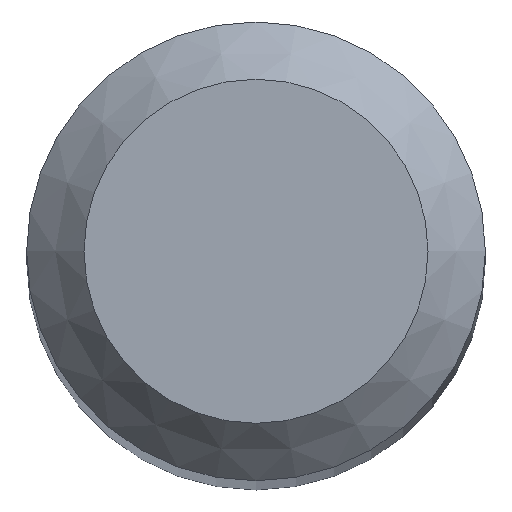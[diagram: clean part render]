
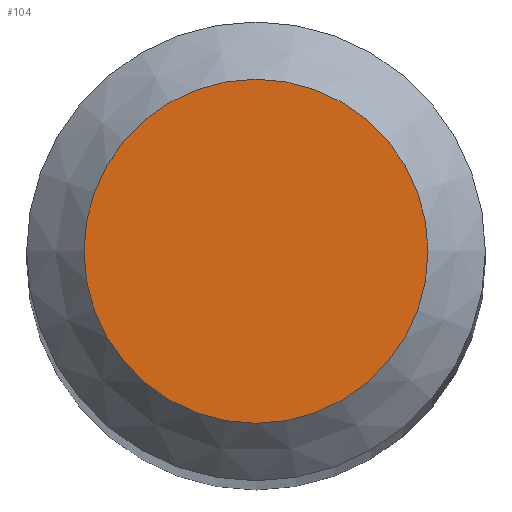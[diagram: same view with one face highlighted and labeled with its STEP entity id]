
A CAD part, top view. The second image highlights one B-rep face of the part: STEP entity #104.
In plain terms, the highlighted planar face has unit normal (0, 0, 1).
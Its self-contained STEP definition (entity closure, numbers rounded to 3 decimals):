
#88=CARTESIAN_POINT('',(1.5,0.0,110.0));
#89=DIRECTION('',(0.0,0.0,1.0));
#90=DIRECTION('',(1.0,0.0,0.0));
#91=AXIS2_PLACEMENT_3D('',#88,#89,#90);
#92=PLANE('',#91);
#93=CARTESIAN_POINT('',(-1.5,0.0,110.0));
#94=VERTEX_POINT('',#93);
#95=CARTESIAN_POINT('',(0.0,0.0,110.0));
#96=DIRECTION('',(0.0,0.0,-1.0));
#97=DIRECTION('',(-1.0,0.0,0.0));
#98=AXIS2_PLACEMENT_3D('',#95,#96,#97);
#99=CIRCLE('',#98,1.5);
#100=EDGE_CURVE('',#94,#94,#99,.T.);
#101=ORIENTED_EDGE('',*,*,#100,.F.);
#102=EDGE_LOOP('',(#101));
#103=FACE_OUTER_BOUND('',#102,.T.);
#104=ADVANCED_FACE('',(#103),#92,.T.);
